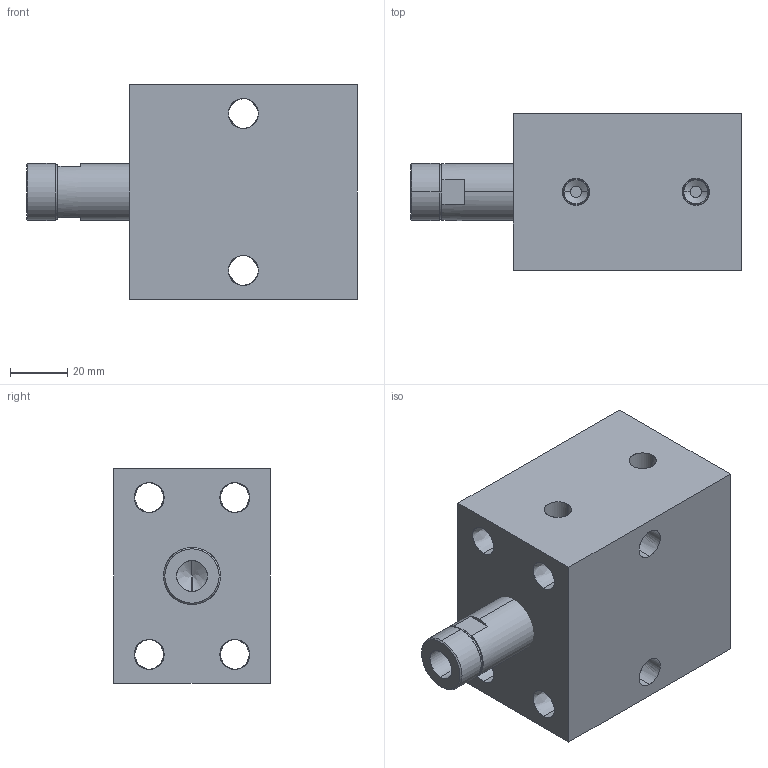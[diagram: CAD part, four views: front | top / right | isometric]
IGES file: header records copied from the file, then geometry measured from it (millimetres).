
Start section: SolidWorks IGES file using analytic representation for surfaces
Global section: file name: C:\Documents and Settings\rajib\Desktop\Rajib\BLOCK CYLINDER HYDRAULIC\0301-0306\IGS 0301-0306\0302.IGS; native system: SolidWorks 2007; preprocessor: SolidWorks 2007; author: rajib; date: 110121.100504; units: millimetre
Bounding box: 116 x 55 x 75 mm (x, y, z)
Surface area: 48381.6 mm2 (no closed solid volume)
Topology: 0 solids, 0 shells, 80 faces, 1752 edges, 1750 vertices
Faces by surface type: revolution 58, bspline 22
